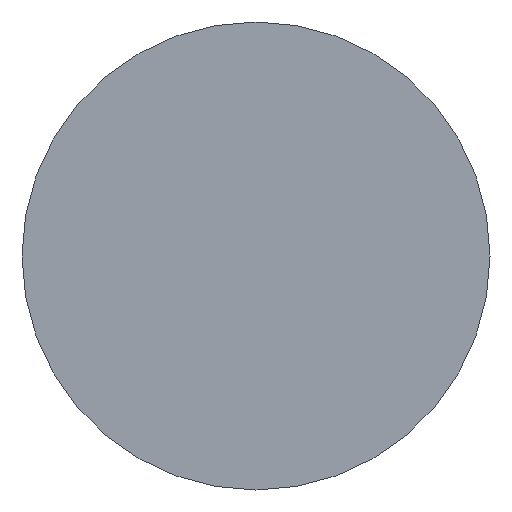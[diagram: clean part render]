
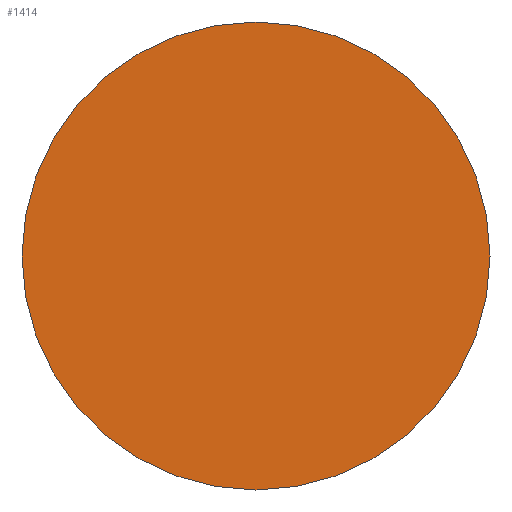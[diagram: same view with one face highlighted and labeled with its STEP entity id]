
A CAD part, front view. The second image highlights one B-rep face of the part: STEP entity #1414.
In plain terms, the highlighted planar face has unit normal (0, -1, 0).
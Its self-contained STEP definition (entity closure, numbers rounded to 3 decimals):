
#223 = EDGE_CURVE ( 'NONE', #1248, #1215, #2708, .T. ) ;
#239 = DIRECTION ( 'NONE',  ( 0., -1., 0. ) ) ;
#335 = CARTESIAN_POINT ( 'NONE',  ( 0., -30., 0. ) ) ;
#454 = DIRECTION ( 'NONE',  ( 1., 0., 0. ) ) ;
#689 = CARTESIAN_POINT ( 'NONE',  ( 41., -30., 0. ) ) ;
#710 = CARTESIAN_POINT ( 'NONE',  ( -41., -30., 0. ) ) ;
#722 = AXIS2_PLACEMENT_3D ( 'NONE', #2556, #239, #2856 ) ;
#1198 = CARTESIAN_POINT ( 'NONE',  ( 41., -30., 0. ) ) ;
#1215 = VERTEX_POINT ( 'NONE', #710 ) ;
#1248 = VERTEX_POINT ( 'NONE', #689 ) ;
#1327 = AXIS2_PLACEMENT_3D ( 'NONE', #1198, #2503, #454 ) ;
#1414 = ADVANCED_FACE ( 'NONE', ( #2820 ), #4135, .T. ) ;
#1768 = EDGE_LOOP ( 'NONE', ( #2793, #3179 ) ) ;
#2176 = EDGE_CURVE ( 'NONE', #1215, #1248, #2478, .T. ) ;
#2478 = CIRCLE ( 'NONE', #2598, 41. ) ;
#2503 = DIRECTION ( 'NONE',  ( 0., -1., 0. ) ) ;
#2556 = CARTESIAN_POINT ( 'NONE',  ( 0., -30., 0. ) ) ;
#2598 = AXIS2_PLACEMENT_3D ( 'NONE', #335, #2891, #3232 ) ;
#2708 = CIRCLE ( 'NONE', #722, 41. ) ;
#2793 = ORIENTED_EDGE ( 'NONE', *, *, #223, .T. ) ;
#2820 = FACE_OUTER_BOUND ( 'NONE', #1768, .T. ) ;
#2856 = DIRECTION ( 'NONE',  ( 1., 0., 0. ) ) ;
#2891 = DIRECTION ( 'NONE',  ( 0., -1., 0. ) ) ;
#3179 = ORIENTED_EDGE ( 'NONE', *, *, #2176, .T. ) ;
#3232 = DIRECTION ( 'NONE',  ( 1., 0., 0. ) ) ;
#4135 = PLANE ( 'NONE',  #1327 ) ;
